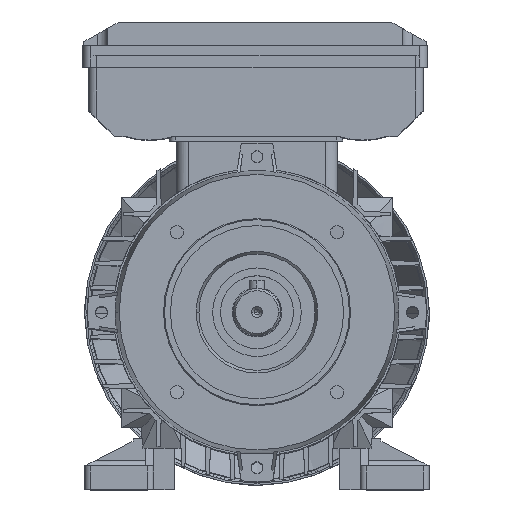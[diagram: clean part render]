
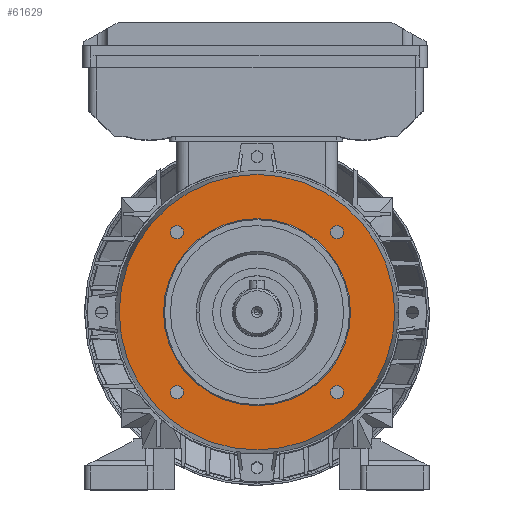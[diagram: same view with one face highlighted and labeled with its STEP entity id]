
A CAD part, top view. The second image highlights one B-rep face of the part: STEP entity #61629.
In plain terms, the highlighted planar face has unit normal (0, 0, 1).
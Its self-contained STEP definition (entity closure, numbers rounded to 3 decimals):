
#9602 = CARTESIAN_POINT ( 'NONE',  ( -70., 0., 43.943 ) ) ;
#9603 = CARTESIAN_POINT ( 'NONE',  ( 70., 0., 43.943 ) ) ;
#9626 = CARTESIAN_POINT ( 'NONE',  ( 47.5, 0., 43.943 ) ) ;
#9627 = CARTESIAN_POINT ( 'NONE',  ( -47.5, 0., 43.943 ) ) ;
#9630 = CARTESIAN_POINT ( 'NONE',  ( -43.982, -40.659, 43.943 ) ) ;
#9631 = CARTESIAN_POINT ( 'NONE',  ( -37.335, -40.659, 43.943 ) ) ;
#9634 = CARTESIAN_POINT ( 'NONE',  ( -43.982, 40.659, 43.943 ) ) ;
#9635 = CARTESIAN_POINT ( 'NONE',  ( -37.335, 40.659, 43.943 ) ) ;
#9638 = CARTESIAN_POINT ( 'NONE',  ( 37.335, 40.659, 43.943 ) ) ;
#9639 = CARTESIAN_POINT ( 'NONE',  ( 43.982, 40.659, 43.943 ) ) ;
#9642 = CARTESIAN_POINT ( 'NONE',  ( 37.335, -40.659, 43.943 ) ) ;
#9643 = CARTESIAN_POINT ( 'NONE',  ( 43.982, -40.659, 43.943 ) ) ;
#17218 = AXIS2_PLACEMENT_3D ( 'NONE', #21874, #21881, #21882 ) ;
#17227 = AXIS2_PLACEMENT_3D ( 'NONE', #21964, #21965, #21966 ) ;
#17235 = AXIS2_PLACEMENT_3D ( 'NONE', #21976, #21977, #21978 ) ;
#17239 = AXIS2_PLACEMENT_3D ( 'NONE', #21988, #21989, #21990 ) ;
#17243 = AXIS2_PLACEMENT_3D ( 'NONE', #22000, #22001, #22002 ) ;
#17247 = AXIS2_PLACEMENT_3D ( 'NONE', #22012, #22013, #22014 ) ;
#17474 = CIRCLE ( 'NONE', #17218, 70. ) ;
#17482 = CIRCLE ( 'NONE', #17227, 47.5 ) ;
#17484 = CIRCLE ( 'NONE', #17235, 3.324 ) ;
#17486 = CIRCLE ( 'NONE', #17239, 3.324 ) ;
#17488 = CIRCLE ( 'NONE', #17243, 3.324 ) ;
#17490 = CIRCLE ( 'NONE', #17247, 3.324 ) ;
#17599 = CIRCLE ( 'NONE', #22890, 3.324 ) ;
#17600 = CIRCLE ( 'NONE', #22888, 3.324 ) ;
#17601 = CIRCLE ( 'NONE', #22894, 3.324 ) ;
#17602 = CIRCLE ( 'NONE', #22896, 3.324 ) ;
#17603 = CIRCLE ( 'NONE', #22897, 47.5 ) ;
#17609 = CIRCLE ( 'NONE', #22951, 70. ) ;
#21874 = CARTESIAN_POINT ( 'NONE',  ( 0., 0., 43.943 ) ) ;
#21881 = DIRECTION ( 'NONE',  ( 0., 0., -1. ) ) ;
#21882 = DIRECTION ( 'NONE',  ( -1., 0., 0. ) ) ;
#21964 = CARTESIAN_POINT ( 'NONE',  ( 0., 0., 43.943 ) ) ;
#21965 = DIRECTION ( 'NONE',  ( 0., 0., 1. ) ) ;
#21966 = DIRECTION ( 'NONE',  ( -1., 0., 0. ) ) ;
#21976 = CARTESIAN_POINT ( 'NONE',  ( -40.659, -40.659, 43.943 ) ) ;
#21977 = DIRECTION ( 'NONE',  ( 0., 0., 1. ) ) ;
#21978 = DIRECTION ( 'NONE',  ( 1., 0., 0. ) ) ;
#21988 = CARTESIAN_POINT ( 'NONE',  ( -40.659, 40.659, 43.943 ) ) ;
#21989 = DIRECTION ( 'NONE',  ( 0., 0., 1. ) ) ;
#21990 = DIRECTION ( 'NONE',  ( 1., 0., 0. ) ) ;
#22000 = CARTESIAN_POINT ( 'NONE',  ( 40.659, 40.659, 43.943 ) ) ;
#22001 = DIRECTION ( 'NONE',  ( 0., 0., 1. ) ) ;
#22002 = DIRECTION ( 'NONE',  ( 1., 0., 0. ) ) ;
#22012 = CARTESIAN_POINT ( 'NONE',  ( 40.659, -40.659, 43.943 ) ) ;
#22013 = DIRECTION ( 'NONE',  ( 0., 0., 1. ) ) ;
#22014 = DIRECTION ( 'NONE',  ( 1., 0., 0. ) ) ;
#22888 = AXIS2_PLACEMENT_3D ( 'NONE', #24306, #24307, #24308 ) ;
#22890 = AXIS2_PLACEMENT_3D ( 'NONE', #24303, #24304, #24305 ) ;
#22894 = AXIS2_PLACEMENT_3D ( 'NONE', #24309, #24310, #24311 ) ;
#22896 = AXIS2_PLACEMENT_3D ( 'NONE', #24312, #24313, #24314 ) ;
#22897 = AXIS2_PLACEMENT_3D ( 'NONE', #24315, #24316, #24317 ) ;
#22951 = AXIS2_PLACEMENT_3D ( 'NONE', #24525, #24526, #24527 ) ;
#24303 = CARTESIAN_POINT ( 'NONE',  ( 40.659, -40.659, 43.943 ) ) ;
#24304 = DIRECTION ( 'NONE',  ( 0., 0., 1. ) ) ;
#24305 = DIRECTION ( 'NONE',  ( 1., 0., 0. ) ) ;
#24306 = CARTESIAN_POINT ( 'NONE',  ( 40.659, 40.659, 43.943 ) ) ;
#24307 = DIRECTION ( 'NONE',  ( 0., 0., 1. ) ) ;
#24308 = DIRECTION ( 'NONE',  ( 1., 0., 0. ) ) ;
#24309 = CARTESIAN_POINT ( 'NONE',  ( -40.659, 40.659, 43.943 ) ) ;
#24310 = DIRECTION ( 'NONE',  ( 0., 0., 1. ) ) ;
#24311 = DIRECTION ( 'NONE',  ( 1., 0., 0. ) ) ;
#24312 = CARTESIAN_POINT ( 'NONE',  ( -40.659, -40.659, 43.943 ) ) ;
#24313 = DIRECTION ( 'NONE',  ( 0., 0., 1. ) ) ;
#24314 = DIRECTION ( 'NONE',  ( 1., 0., 0. ) ) ;
#24315 = CARTESIAN_POINT ( 'NONE',  ( 0., 0., 43.943 ) ) ;
#24316 = DIRECTION ( 'NONE',  ( 0., 0., 1. ) ) ;
#24317 = DIRECTION ( 'NONE',  ( -1., 0., 0. ) ) ;
#24525 = CARTESIAN_POINT ( 'NONE',  ( 0., 0., 43.943 ) ) ;
#24526 = DIRECTION ( 'NONE',  ( 0., 0., -1. ) ) ;
#24527 = DIRECTION ( 'NONE',  ( -1., 0., 0. ) ) ;
#38061 = FACE_BOUND ( 'NONE', #57013, .T. ) ;
#38080 = FACE_BOUND ( 'NONE', #56972, .T. ) ;
#38085 = FACE_BOUND ( 'NONE', #57056, .T. ) ;
#38086 = AXIS2_PLACEMENT_3D ( 'NONE', #41682, #41683, #41684 ) ;
#38087 = FACE_BOUND ( 'NONE', #56869, .T. ) ;
#38089 = FACE_OUTER_BOUND ( 'NONE', #56865, .T. ) ;
#38090 = FACE_BOUND ( 'NONE', #57059, .T. ) ;
#41681 = PLANE ( 'NONE',  #38086 ) ;
#41682 = CARTESIAN_POINT ( 'NONE',  ( -47.5, 0., 43.943 ) ) ;
#41683 = DIRECTION ( 'NONE',  ( 0., 0., -1. ) ) ;
#41684 = DIRECTION ( 'NONE',  ( -1., 0., 0. ) ) ;
#47766 = VERTEX_POINT ( 'NONE', #9602 ) ;
#47767 = VERTEX_POINT ( 'NONE', #9603 ) ;
#47790 = VERTEX_POINT ( 'NONE', #9626 ) ;
#47791 = VERTEX_POINT ( 'NONE', #9627 ) ;
#47794 = VERTEX_POINT ( 'NONE', #9630 ) ;
#47795 = VERTEX_POINT ( 'NONE', #9631 ) ;
#47798 = VERTEX_POINT ( 'NONE', #9634 ) ;
#47799 = VERTEX_POINT ( 'NONE', #9635 ) ;
#47802 = VERTEX_POINT ( 'NONE', #9638 ) ;
#47803 = VERTEX_POINT ( 'NONE', #9639 ) ;
#47806 = VERTEX_POINT ( 'NONE', #9642 ) ;
#47807 = VERTEX_POINT ( 'NONE', #9643 ) ;
#52179 = EDGE_CURVE ( 'NONE', #47766, #47767, #17474, .T. ) ;
#52203 = EDGE_CURVE ( 'NONE', #47790, #47791, #17482, .T. ) ;
#52207 = EDGE_CURVE ( 'NONE', #47794, #47795, #17484, .T. ) ;
#52211 = EDGE_CURVE ( 'NONE', #47798, #47799, #17486, .T. ) ;
#52215 = EDGE_CURVE ( 'NONE', #47802, #47803, #17488, .T. ) ;
#52219 = EDGE_CURVE ( 'NONE', #47806, #47807, #17490, .T. ) ;
#53404 = ORIENTED_EDGE ( 'NONE', *, *, #53624, .F. ) ;
#53405 = ORIENTED_EDGE ( 'NONE', *, *, #52203, .F. ) ;
#53406 = ORIENTED_EDGE ( 'NONE', *, *, #53623, .F. ) ;
#53407 = ORIENTED_EDGE ( 'NONE', *, *, #52207, .F. ) ;
#53408 = ORIENTED_EDGE ( 'NONE', *, *, #53622, .F. ) ;
#53409 = ORIENTED_EDGE ( 'NONE', *, *, #52211, .F. ) ;
#53410 = ORIENTED_EDGE ( 'NONE', *, *, #53621, .F. ) ;
#53411 = ORIENTED_EDGE ( 'NONE', *, *, #52215, .F. ) ;
#53412 = ORIENTED_EDGE ( 'NONE', *, *, #52179, .F. ) ;
#53413 = ORIENTED_EDGE ( 'NONE', *, *, #53690, .F. ) ;
#53414 = ORIENTED_EDGE ( 'NONE', *, *, #52219, .F. ) ;
#53415 = ORIENTED_EDGE ( 'NONE', *, *, #53620, .F. ) ;
#53620 = EDGE_CURVE ( 'NONE', #47807, #47806, #17599, .T. ) ;
#53621 = EDGE_CURVE ( 'NONE', #47803, #47802, #17600, .T. ) ;
#53622 = EDGE_CURVE ( 'NONE', #47799, #47798, #17601, .T. ) ;
#53623 = EDGE_CURVE ( 'NONE', #47795, #47794, #17602, .T. ) ;
#53624 = EDGE_CURVE ( 'NONE', #47791, #47790, #17603, .T. ) ;
#53690 = EDGE_CURVE ( 'NONE', #47767, #47766, #17609, .T. ) ;
#56865 = EDGE_LOOP ( 'NONE', ( #53412, #53413 ) ) ;
#56869 = EDGE_LOOP ( 'NONE', ( #53410, #53411 ) ) ;
#56972 = EDGE_LOOP ( 'NONE', ( #53406, #53407 ) ) ;
#57013 = EDGE_LOOP ( 'NONE', ( #53404, #53405 ) ) ;
#57056 = EDGE_LOOP ( 'NONE', ( #53408, #53409 ) ) ;
#57059 = EDGE_LOOP ( 'NONE', ( #53415, #53414 ) ) ;
#61629 = ADVANCED_FACE ( 'NONE', ( #38061, #38080, #38085, #38087, #38089, #38090 ), #41681, .F. ) ;
